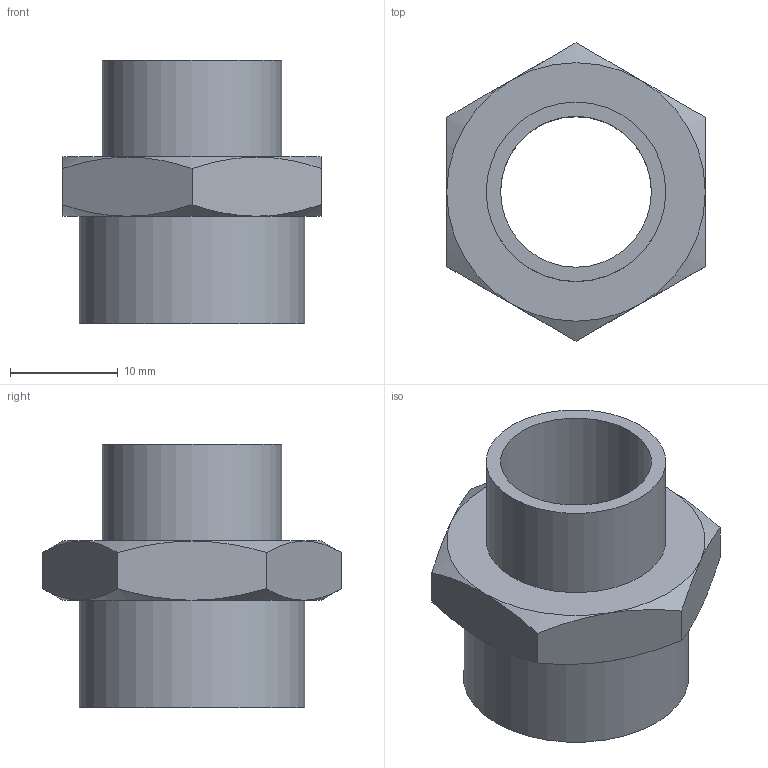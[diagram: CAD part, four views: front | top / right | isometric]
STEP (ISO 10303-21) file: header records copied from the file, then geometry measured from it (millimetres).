
FILE_DESCRIPTION(/* description */ (''),/* implementation_level */ '2;1');
FILE_NAME(/* name */ 'C:\PNX_VAULTFOLDER\Area Tecnica\Disegni\VARIE-3D\Componenti\raccordi\101####\1013812.stp',/* time_stamp */ '2019-09-13T10:22:56+02:00',/* author */ ('maniean1'),/* organization */ ('Pneumax S.p.A.'),/* preprocessor_version */ 'ST-DEVELOPER v17',/* originating_system */ 'Autodesk Inventor 2019',/* authorisation */ '');
FILE_SCHEMA (('AUTOMOTIVE_DESIGN { 1 0 10303 214 3 1 1 }'));
Length unit declared in the file: millimetre
Products named in the file (1): 1013812
Bounding box: 24 x 27.71 x 24.5 mm (x, y, z)
Volume: 4353.2 mm3; surface area: 3307.3 mm2
Topology: 1 solids, 1 shells, 25 faces, 56 edges, 35 vertices
Faces by surface type: cone 12, plane 10, cylinder 3
Full cylindrical faces by diameter (mm): 14 x1, 16.662 x1, 20.955 x1
Entity records: 741 total; most frequent: CARTESIAN_POINT 165, ORIENTED_EDGE 112, DIRECTION 107, EDGE_CURVE 56, AXIS2_PLACEMENT_3D 49, VERTEX_POINT 35, EDGE_LOOP 29, STYLED_ITEM 26
